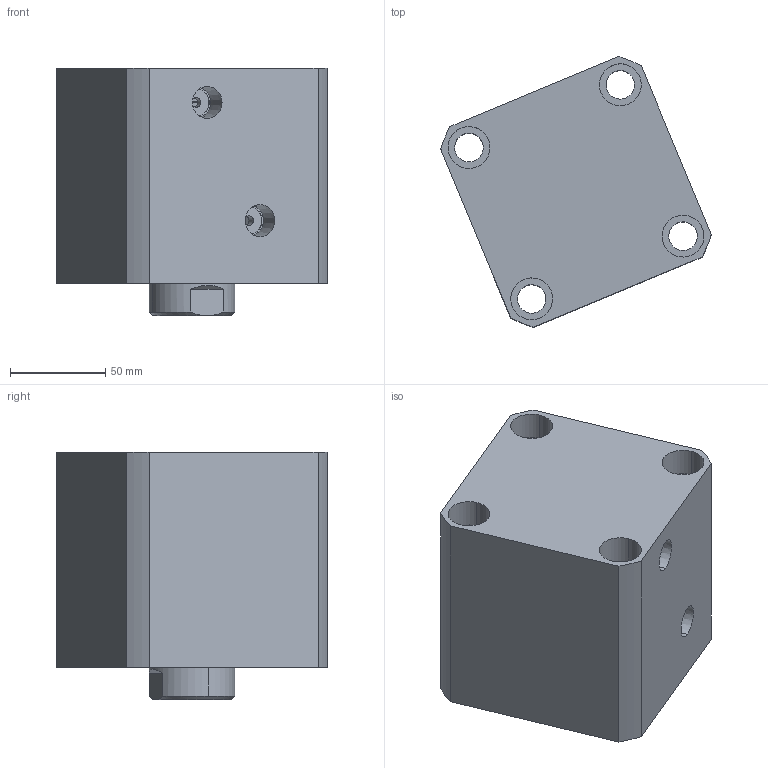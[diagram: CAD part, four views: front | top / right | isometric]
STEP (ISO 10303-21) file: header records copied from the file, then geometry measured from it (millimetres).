
FILE_DESCRIPTION (( 'STEP AP214' ), '1' );
FILE_NAME ('chtb-sd80x35n_asm.STEP', '2018-05-26T04:20:27', ( 'Windows' ), ( 'Microsoft' ), 'SwSTEP 2.0', 'SolidWorks 2015', '' );
FILE_SCHEMA (( 'AUTOMOTIVE_DESIGN' ));
Length unit declared in the file: millimetre
Products named in the file (4): CHTB-SD80X35NHSG; CHTB-SD80X35NBT; CHTB-SD80QG; chtb-sd80x35n_asm
Assembly tree (3 placements, depth 2):
  chtb-sd80x35n_asm
    CHTB-SD80QG
    CHTB-SD80X35NBT
    CHTB-SD80X35NHSG
Bounding box: 142.06 x 142.06 x 130 mm (x, y, z)
Volume: 1209826.6 mm3; surface area: 185426.7 mm2
Topology: 3 solids, 3 shells, 192 faces, 510 edges, 341 vertices
Faces by surface type: cylinder 103, plane 37, cone 20, torus 18, bspline 14
Entity records: 15144 total; most frequent: CARTESIAN_POINT 10435, ORIENTED_EDGE 1008, DIRECTION 889, EDGE_CURVE 504, AXIS2_PLACEMENT_3D 374, VERTEX_POINT 341, EDGE_LOOP 229, ADVANCED_FACE 192
